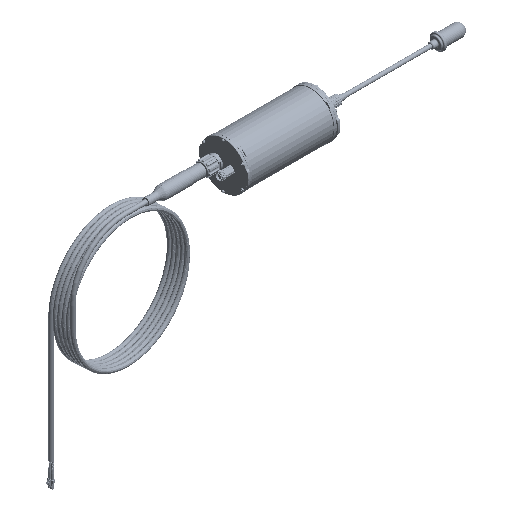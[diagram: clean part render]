
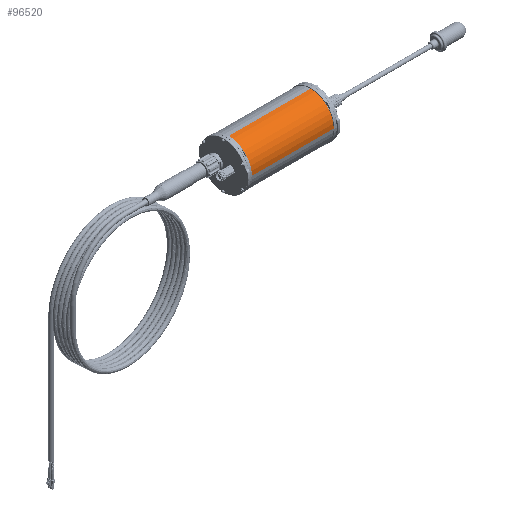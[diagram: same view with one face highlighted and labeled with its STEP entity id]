
A CAD part, isometric view. The second image highlights one B-rep face of the part: STEP entity #96520.
In plain terms, the highlighted cylindrical face has radius 56 mm (diameter 112 mm), a partial arc.
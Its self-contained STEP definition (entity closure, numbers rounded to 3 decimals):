
#4820 = VERTEX_POINT ( 'NONE', #80391 ) ;
#8573 = DIRECTION ( 'NONE',  ( -1., 0., 0. ) ) ;
#10525 = CIRCLE ( 'NONE', #85685, 56. ) ;
#18719 = CARTESIAN_POINT ( 'NONE',  ( -0.5, 0., 0. ) ) ;
#19040 = LINE ( 'NONE', #90785, #122973 ) ;
#22430 = EDGE_LOOP ( 'NONE', ( #50749, #55327, #137922, #139471 ) ) ;
#26821 = AXIS2_PLACEMENT_3D ( 'NONE', #213011, #104719, #139961 ) ;
#32930 = DIRECTION ( 'NONE',  ( -1., 0., 0. ) ) ;
#34501 = EDGE_CURVE ( 'NONE', #159928, #4820, #169565, .T. ) ;
#40636 = AXIS2_PLACEMENT_3D ( 'NONE', #207445, #8573, #223955 ) ;
#42974 = EDGE_CURVE ( 'NONE', #127343, #143057, #10525, .T. ) ;
#50749 = ORIENTED_EDGE ( 'NONE', *, *, #42974, .T. ) ;
#52913 = DIRECTION ( 'NONE',  ( 0., 0., 1. ) ) ;
#55327 = ORIENTED_EDGE ( 'NONE', *, *, #225805, .T. ) ;
#64675 = CARTESIAN_POINT ( 'NONE',  ( -0.5, 0., 56. ) ) ;
#69436 = CARTESIAN_POINT ( 'NONE',  ( -76.2, 0., 56. ) ) ;
#80391 = CARTESIAN_POINT ( 'NONE',  ( -199.5, 0., 56. ) ) ;
#80425 = FACE_OUTER_BOUND ( 'NONE', #22430, .T. ) ;
#82370 = VECTOR ( 'NONE', #85862, 1000. ) ;
#85685 = AXIS2_PLACEMENT_3D ( 'NONE', #18719, #32930, #52913 ) ;
#85862 = DIRECTION ( 'NONE',  ( -1., 0., 0. ) ) ;
#90785 = CARTESIAN_POINT ( 'NONE',  ( -76.2, -56., 0. ) ) ;
#96520 = ADVANCED_FACE ( 'NONE', ( #80425 ), #152054, .T. ) ;
#104719 = DIRECTION ( 'NONE',  ( -1., 0., 0. ) ) ;
#122973 = VECTOR ( 'NONE', #162516, 1000. ) ;
#127343 = VERTEX_POINT ( 'NONE', #128565 ) ;
#128565 = CARTESIAN_POINT ( 'NONE',  ( -0.5, -56., 0. ) ) ;
#137922 = ORIENTED_EDGE ( 'NONE', *, *, #34501, .F. ) ;
#139471 = ORIENTED_EDGE ( 'NONE', *, *, #184807, .F. ) ;
#139961 = DIRECTION ( 'NONE',  ( 0., 0., -1. ) ) ;
#143057 = VERTEX_POINT ( 'NONE', #64675 ) ;
#152054 = CYLINDRICAL_SURFACE ( 'NONE', #40636, 56. ) ;
#157564 = LINE ( 'NONE', #69436, #82370 ) ;
#159928 = VERTEX_POINT ( 'NONE', #185069 ) ;
#162516 = DIRECTION ( 'NONE',  ( -1., 0., 0. ) ) ;
#169565 = CIRCLE ( 'NONE', #26821, 56. ) ;
#184807 = EDGE_CURVE ( 'NONE', #127343, #159928, #19040, .T. ) ;
#185069 = CARTESIAN_POINT ( 'NONE',  ( -199.5, -56., 0. ) ) ;
#207445 = CARTESIAN_POINT ( 'NONE',  ( -76.2, 0., 0. ) ) ;
#213011 = CARTESIAN_POINT ( 'NONE',  ( -199.5, 0., 0. ) ) ;
#223955 = DIRECTION ( 'NONE',  ( 0., 0., 1. ) ) ;
#225805 = EDGE_CURVE ( 'NONE', #143057, #4820, #157564, .T. ) ;
